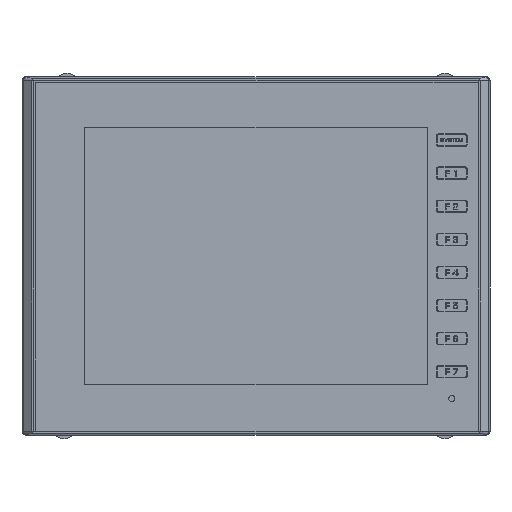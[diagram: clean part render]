
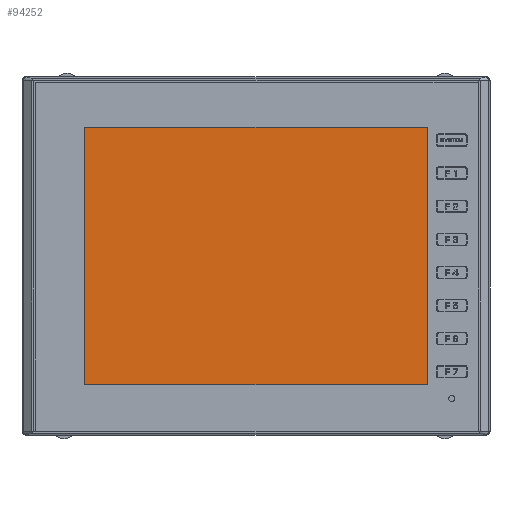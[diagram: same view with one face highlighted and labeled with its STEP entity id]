
A CAD part, top view. The second image highlights one B-rep face of the part: STEP entity #94252.
In plain terms, the highlighted planar face has unit normal (0, 0, 1).
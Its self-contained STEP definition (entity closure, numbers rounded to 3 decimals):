
#31692=DIRECTION('',(0.,-1.,0.));
#31693=VECTOR('',#31692,129.4);
#31694=CARTESIAN_POINT('',(-86.,64.7,5.638));
#31695=LINE('',#31694,#31693);
#31696=DIRECTION('',(-1.,0.,0.));
#31697=VECTOR('',#31696,172.);
#31698=CARTESIAN_POINT('',(86.,64.7,5.638));
#31699=LINE('',#31698,#31697);
#31700=DIRECTION('',(0.,1.,0.));
#31701=VECTOR('',#31700,129.4);
#31702=CARTESIAN_POINT('',(86.,-64.7,5.638));
#31703=LINE('',#31702,#31701);
#31704=DIRECTION('',(1.,0.,0.));
#31705=VECTOR('',#31704,172.);
#31706=CARTESIAN_POINT('',(-86.,-64.7,5.638));
#31707=LINE('',#31706,#31705);
#52234=CARTESIAN_POINT('',(-86.,64.7,5.638));
#52235=CARTESIAN_POINT('',(-86.,-64.7,5.638));
#52236=VERTEX_POINT('',#52234);
#52237=VERTEX_POINT('',#52235);
#52238=CARTESIAN_POINT('',(86.,-64.7,5.638));
#52239=VERTEX_POINT('',#52238);
#52240=CARTESIAN_POINT('',(86.,64.7,5.638));
#52241=VERTEX_POINT('',#52240);
#94241=CARTESIAN_POINT('',(0.,0.,5.638));
#94242=DIRECTION('',(0.,0.,1.));
#94243=DIRECTION('',(1.,0.,0.));
#94244=AXIS2_PLACEMENT_3D('',#94241,#94242,#94243);
#94245=PLANE('',#94244);
#94246=ORIENTED_EDGE('',*,*,#94193,.F.);
#94247=ORIENTED_EDGE('',*,*,#94208,.F.);
#94248=ORIENTED_EDGE('',*,*,#94222,.F.);
#94249=ORIENTED_EDGE('',*,*,#94235,.F.);
#94250=EDGE_LOOP('',(#94246,#94247,#94248,#94249));
#94251=FACE_OUTER_BOUND('',#94250,.F.);
#94252=ADVANCED_FACE('',(#94251),#94245,.T.);
#94193=EDGE_CURVE('',#52236,#52237,#31695,.T.);
#94208=EDGE_CURVE('',#52241,#52236,#31699,.T.);
#94222=EDGE_CURVE('',#52239,#52241,#31703,.T.);
#94235=EDGE_CURVE('',#52237,#52239,#31707,.T.);
